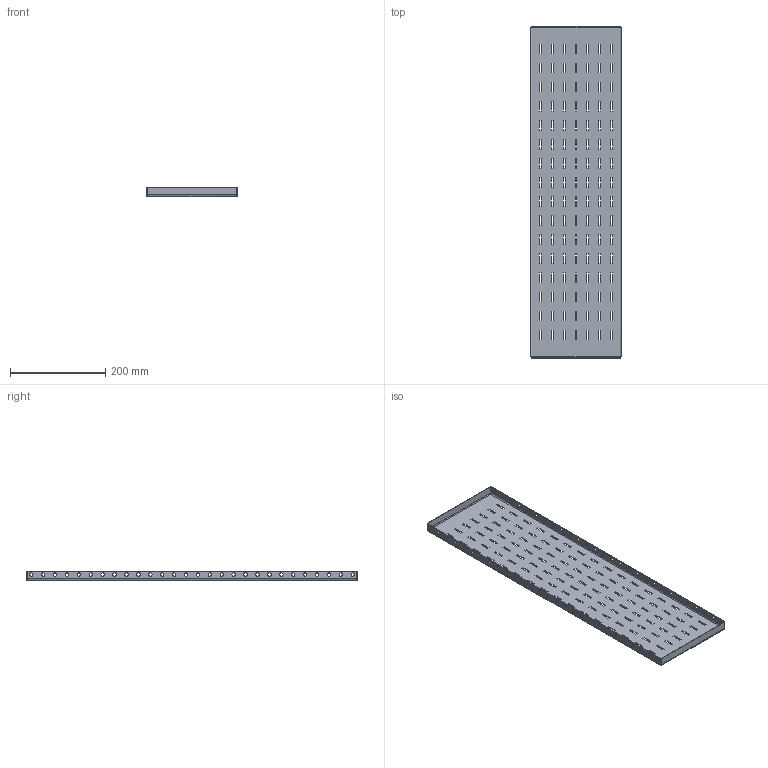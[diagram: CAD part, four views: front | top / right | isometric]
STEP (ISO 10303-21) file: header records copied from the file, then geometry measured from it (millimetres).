
FILE_DESCRIPTION(('STEP AP203'), '1');
FILE_NAME('Êîìïëåêò îãðàæäåíèÿ ñáîðíîé øèíû çàäíèé 1800õ300 ìì OptiBox M 419329 ÊÝÀÇ', '', ('UNSPECIFIED'), ('UNSPECIFIED'), 'C3D Converter', 'C3D Toolkit', '');
FILE_SCHEMA(('CONFIG_CONTROL_DESIGN'));
Length unit declared in the file: millimetre
Bounding box: 192 x 697 x 19 mm (x, y, z)
Volume: 227050.9 mm3; surface area: 315603.9 mm2
Topology: 1 solids, 1 shells, 542 faces, 1588 edges, 1048 vertices
Faces by surface type: plane 470, cylinder 64, bspline 8
Full cylindrical faces by diameter (mm): 7.3 x56
Entity records: 19552 total; most frequent: CARTESIAN_POINT 4639, ORIENTED_EDGE 3064, DIRECTION 2694, EDGE_CURVE 1532, LINE 1400, VECTOR 1400, VERTEX_POINT 1048, EDGE_LOOP 934
